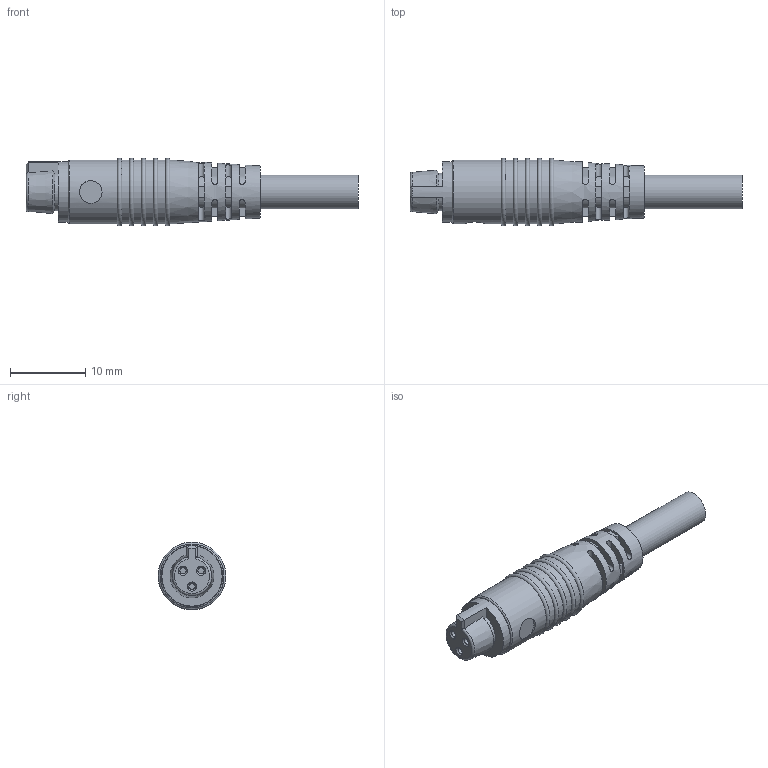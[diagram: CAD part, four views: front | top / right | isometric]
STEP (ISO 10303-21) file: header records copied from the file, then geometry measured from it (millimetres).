
FILE_DESCRIPTION(/* description */ (''),/* implementation_level */ '2;1');
FILE_NAME(/* name */ 'N:\Zeichnungen\Zubehör\Näherungsschalter\Näherungsschalter NSS-SMI\Neutrale CAD-Formate\Kabelbuchse.stp',/* time_stamp */ '2022-06-02T11:27:54+02:00',/* author */ ('gose'),/* organization */ ('TraceParts S.A.'),/* preprocessor_version */ 'ST-DEVELOPER v19',/* originating_system */ 'Autodesk Inventor 2023',/* authorisation */ '');
FILE_SCHEMA (('AUTOMOTIVE_DESIGN { 1 0 10303 214 3 1 1 }'));
Length unit declared in the file: millimetre
Products named in the file (1): 79_9002_15_03
Bounding box: 44.1 x 9 x 9 mm (x, y, z)
Volume: 1657.9 mm3; surface area: 1243.8 mm2
Topology: 1 solids, 1 shells, 111 faces, 278 edges, 181 vertices
Faces by surface type: plane 53, cylinder 44, cone 7, torus 7
Full cylindrical faces by diameter (mm): 0.82 x3, 3 x1, 4.5 x1, 8 x1, 8.5 x5
Entity records: 4373 total; most frequent: CARTESIAN_POINT 1660, DIRECTION 557, ORIENTED_EDGE 556, EDGE_CURVE 278, AXIS2_PLACEMENT_3D 209, VERTEX_POINT 181, LINE 139, VECTOR 139
